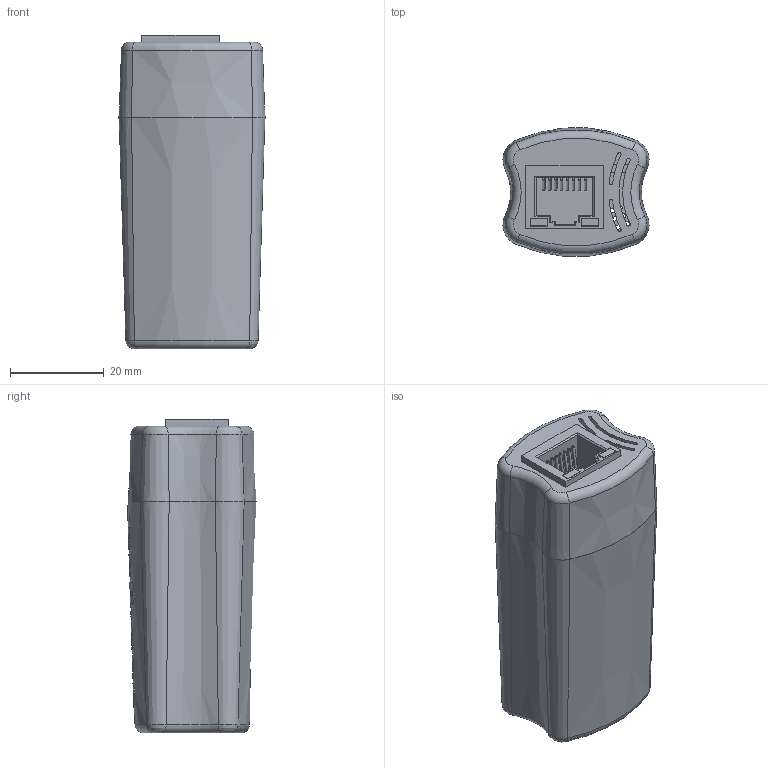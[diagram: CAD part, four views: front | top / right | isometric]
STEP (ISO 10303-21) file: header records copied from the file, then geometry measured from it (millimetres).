
FILE_DESCRIPTION(/* description */ (''),/* implementation_level */ '2;1');
FILE_NAME(/* name */ '/Users/leo/Desktop/Desktop - Leonardo’s MacBook Air/Coolgear May/CG-POE15VPDv2/CG-POE15VPDv2 Model3D LPV1.step',/* time_stamp */ '2021-06-22T16:11:18-04:00',/* author */ (''),/* organization */ (''),/* preprocessor_version */ 'ST-DEVELOPER v18.1',/* originating_system */ 'Autodesk Translation Framework v10.9.0.1377',/* authorisation */ '');
FILE_SCHEMA (('AUTOMOTIVE_DESIGN { 1 0 10303 214 3 1 1 }'));
Length unit declared in the file: millimetre
Products named in the file (1): FusionComponent
Bounding box: 31.12 x 27.38 x 66.87 mm (x, y, z)
Volume: 18312 mm3; surface area: 20313 mm2
Topology: 4 solids, 4 shells, 921 faces, 2557 edges, 1661 vertices
Faces by surface type: plane 549, cylinder 185, bspline 89, cone 70, torus 24, sphere 4
Full cylindrical faces by diameter (mm): 0.5 x2, 0.8 x8, 1 x4
Entity records: 35900 total; most frequent: CARTESIAN_POINT 12394, ORIENTED_EDGE 5078, DIRECTION 4577, EDGE_CURVE 2539, LINE 1757, VECTOR 1757, VERTEX_POINT 1661, AXIS2_PLACEMENT_3D 1410
